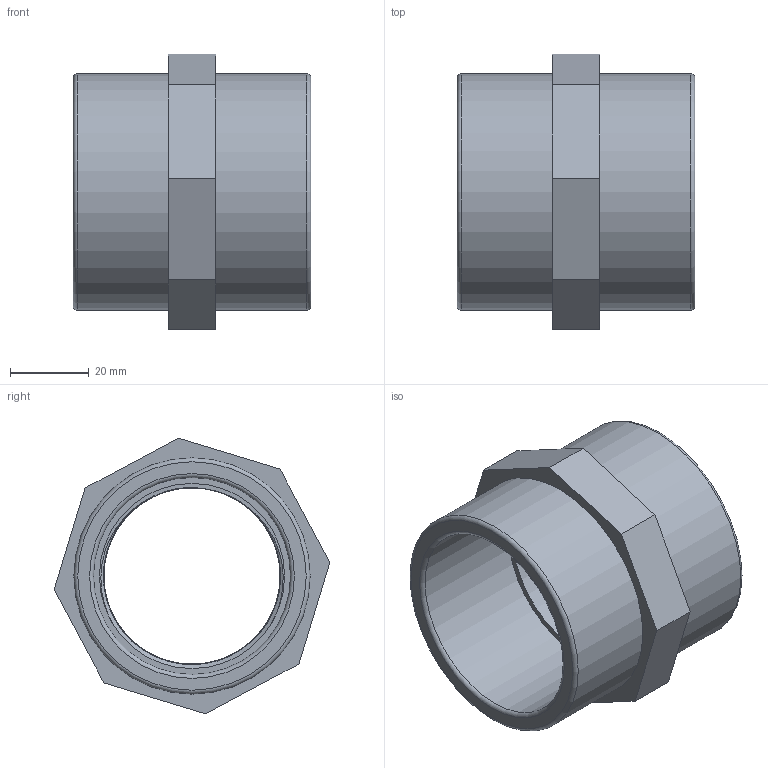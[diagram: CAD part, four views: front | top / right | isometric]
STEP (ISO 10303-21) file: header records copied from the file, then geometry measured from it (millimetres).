
FILE_DESCRIPTION(/* description */ (''),/* implementation_level */ '2;1');
FILE_NAME(/* name */ 'C:\Users\Gabriele\Desktop\disegni 3D\SO12\SO12050F.ipt.stp',/* time_stamp */ '2017-02-10T09:52:39+01:00',/* author */ ('Eugenio'),/* organization */ (''),/* preprocessor_version */ 'ST-DEVELOPER v16.5',/* originating_system */ 'Autodesk Inventor 2017',/* authorisation */ '');
FILE_SCHEMA (('AUTOMOTIVE_DESIGN { 1 0 10303 214 3 1 1 }'));
Length unit declared in the file: millimetre
Products named in the file (1): SO12050F
Bounding box: 60.4 x 70.02 x 70.02 mm (x, y, z)
Volume: 67814.6 mm3; surface area: 32556.8 mm2
Topology: 2 solids, 2 shells, 33 faces, 73 edges, 48 vertices
Faces by surface type: plane 16, cylinder 7, bspline 6, torus 4
Full cylindrical faces by diameter (mm): 47 x1, 47.8 x2, 50 x1, 60 x2
Entity records: 4985 total; most frequent: CARTESIAN_POINT 4310, ORIENTED_EDGE 122, DIRECTION 116, EDGE_CURVE 61, EDGE_LOOP 51, VERTEX_POINT 46, AXIS2_PLACEMENT_3D 46, FACE_OUTER_BOUND 33
